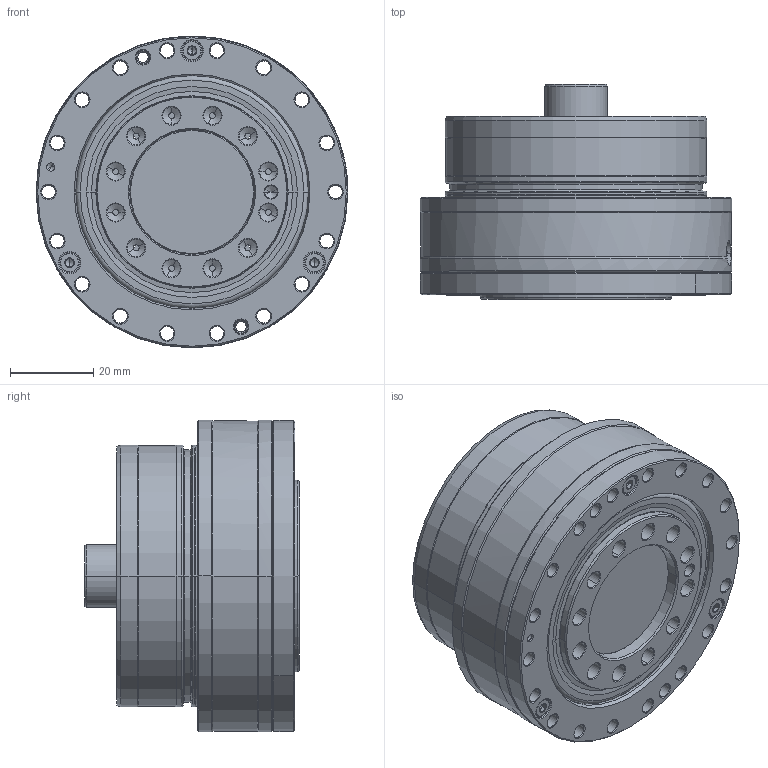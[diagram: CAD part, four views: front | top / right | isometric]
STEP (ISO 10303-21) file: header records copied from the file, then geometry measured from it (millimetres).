
FILE_DESCRIPTION((''),'2;1');
FILE_NAME('075_000G_P9_0438_ASM_ASM','2020-02-13T',('ceslar'),(''),'PRO/ENGINEER BY PARAMETRIC TECHNOLOGY CORPORATION, 2016240','PRO/ENGINEER BY PARAMETRIC TECHNOLOGY CORPORATION, 2016240','');
FILE_SCHEMA(('CONFIG_CONTROL_DESIGN'));
Length unit declared in the file: millimetre
Products named in the file (14): 075_011G_0438_AF0_1; 075_003G_0438_AF0_1; 075_007G_0751_AF0_1; GUF_DIN3761AS-046X056X4-FPM_AF0; SKR_DIN912-M2_5X6-129_AF0_1; SKR_DIN912-M2_5X6-129_AF1_1; SKR_DIN912-M2_5X6-129_AF2_1; 075_001G_P9_0438_AF0_1; 075_002G_0438_AF0_1; ZATKA-GA30X5_AF0_1; ZATKA-FESTO-B-M3-S9_AF0_1; 075_026G_0304_AF0_1; 075_000G_P9_0438_ASM_1_ASM; 075_000G_P9_0438_ASM_ASM
Assembly tree (13 placements, depth 3):
  075_000G_P9_0438_ASM_ASM
    075_000G_P9_0438_ASM_1_ASM
      075_011G_0438_AF0_1
      075_003G_0438_AF0_1
      075_007G_0751_AF0_1
      GUF_DIN3761AS-046X056X4-FPM_AF0
      SKR_DIN912-M2_5X6-129_AF0_1
      SKR_DIN912-M2_5X6-129_AF1_1
      SKR_DIN912-M2_5X6-129_AF2_1
      075_001G_P9_0438_AF0_1
      075_002G_0438_AF0_1
      ZATKA-GA30X5_AF0_1
      ZATKA-FESTO-B-M3-S9_AF0_1
      075_026G_0304_AF0_1
Bounding box: 75 x 51.7 x 75 mm (x, y, z)
Volume: 59311.4 mm3; surface area: 50108.8 mm2
Topology: 12 solids, 13 shells, 814 faces, 2372 edges, 1591 vertices
Faces by surface type: cone 403, cylinder 254, plane 110, torus 47
Entity records: 28676 total; most frequent: DIRECTION 5538, CARTESIAN_POINT 5189, ORIENTED_EDGE 4672, AXIS2_PLACEMENT_3D 2407, EDGE_CURVE 2336, VERTEX_POINT 1591, CIRCLE 1554, EDGE_LOOP 997
